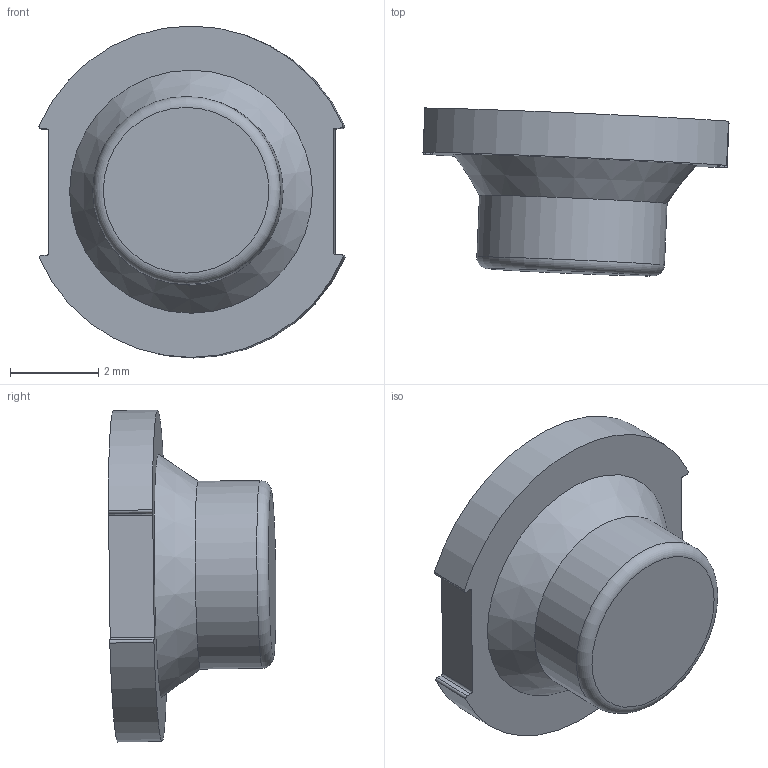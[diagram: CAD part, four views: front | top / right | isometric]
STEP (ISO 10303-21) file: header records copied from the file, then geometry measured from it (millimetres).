
FILE_DESCRIPTION(/* description */ (''),/* implementation_level */ '2;1');
FILE_NAME(/* name */ 'Silicone Trigger.step',/* time_stamp */ '2026-09-24T01:33:50-07:00',/* author */ (''),/* organization */ (''),/* preprocessor_version */ 'ST-DEVELOPER v20.2',/* originating_system */ 'Autodesk Translation Framework v15.15.0.0',/* authorisation */ '');
FILE_SCHEMA (('AUTOMOTIVE_DESIGN { 1 0 10303 214 3 1 1 }','PROCESS_PLANNING_SCHEMA'));
Length unit declared in the file: millimetre
Products named in the file (1): 2026-09-24-01-33-50-423
Bounding box: 6.92 x 3.8 x 7.51 mm (x, y, z)
Volume: 56.2 mm3; surface area: 155.2 mm2
Topology: 1 solids, 1 shells, 28 faces, 65 edges, 42 vertices
Faces by surface type: cylinder 13, plane 11, torus 2, cone 2
Full cylindrical faces by diameter (mm): 3.2 x1, 4.25 x1, 5.5 x1
Entity records: 849 total; most frequent: DIRECTION 155, CARTESIAN_POINT 136, ORIENTED_EDGE 130, EDGE_CURVE 65, AXIS2_PLACEMENT_3D 61, VERTEX_POINT 42, LINE 33, VECTOR 33
